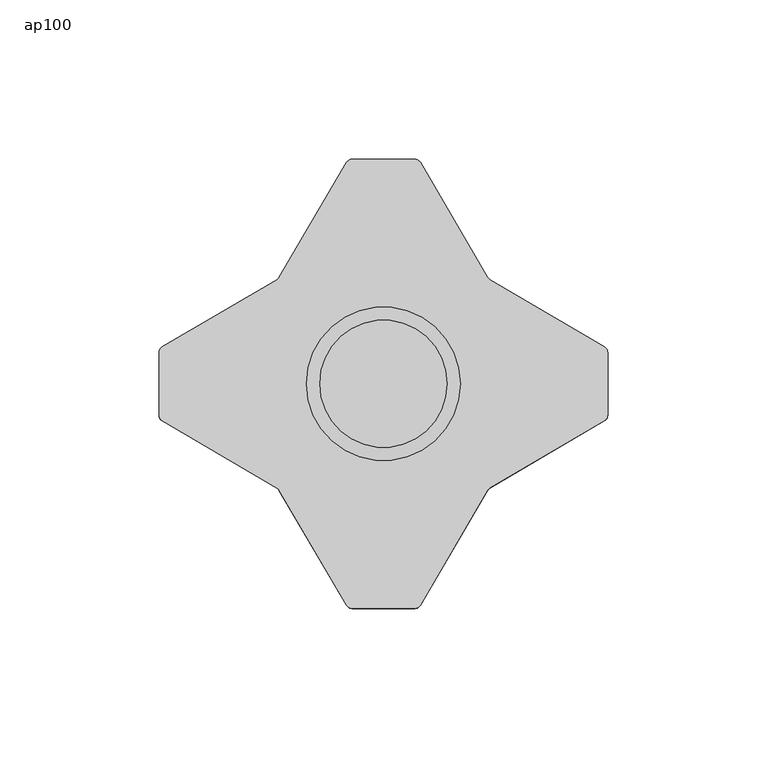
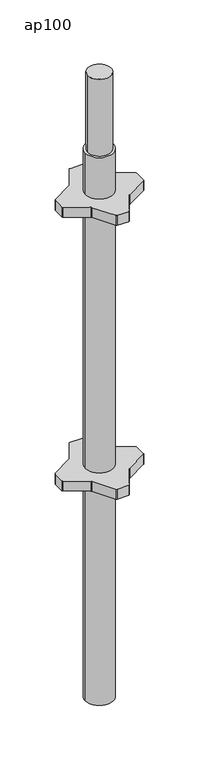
"""IFC4 building model written with IfcOpenShell, lengths in millimetres: proxy geometry, MILLS_ACRAM_POTEAUX  : ap100."""

from ifc_helpers import new_model, si_unit, point, frame, frame_2d, origin, place, context, project, spatial, polyline, circle_curve, trimmed, segment, composite_curve, outline, extrude, source, transform, mapped, element, save


def ap100_b654b57a(model_context):
    return source(origin(), model_context, "Body", "SweptSolid", [
        extrude(outline(composite_curve([segment(trimmed(circle_curve(frame_2d((-69.4239115, 68.5)), 2.0), [point((-69.4239115, 70.5))], [point((-67.6988617, 69.5120292))], False, "CARTESIAN"), True, "CONTINUOUS"), segment(polyline([(-67.6988617, 69.5120292), (-46.5421091, 33.4493827)]), True, "CONTINUOUS"), segment(trimmed(circle_curve(frame_2d((-44.8170593, 34.4614119)), 2.0), [point((-46.5421091, 33.4493827))], [point((-45.8290885, 32.7363621))], True, "CARTESIAN"), True, "CONTINUOUS"), segment(polyline([(-45.8290885, 32.7363621), (-9.7948682, 11.5962862)]), True, "CONTINUOUS"), segment(trimmed(circle_curve(frame_2d((-10.8068975, 9.8712364)), 2.0), [point((-9.7948682, 11.5962862))], [point((-8.8068975, 9.8712364))], False, "CARTESIAN"), True, "CONTINUOUS"), segment(polyline([(-8.8068975, 9.8712364), (-8.8068975, -9.8545597)]), True, "CONTINUOUS"), segment(trimmed(circle_curve(frame_2d((-10.8068975, -9.8545597)), 2.0), [point((-8.8068975, -9.8545597))], [point((-9.7948682, -11.5796095))], False, "CARTESIAN"), True, "CONTINUOUS"), segment(polyline([(-9.7948682, -11.5796095), (-45.8141703, -32.7109334)]), True, "CONTINUOUS"), segment(trimmed(circle_curve(frame_2d((-44.8021411, -34.4359832)), 2.0), [point((-45.8141703, -32.7109334))], [point((-46.5271909, -33.423954))], True, "CARTESIAN"), True, "CONTINUOUS"), segment(polyline([(-46.5271909, -33.423954), (-67.6988617, -69.5120292)]), True, "CONTINUOUS"), segment(trimmed(circle_curve(frame_2d((-69.4239115, -68.5)), 2.0), [point((-67.6988617, -69.5120292))], [point((-69.4239115, -70.5))], False, "CARTESIAN"), True, "CONTINUOUS"), segment(polyline([(-69.4239115, -70.5), (-89.1330309, -70.5)]), True, "CONTINUOUS"), segment(trimmed(circle_curve(frame_2d((-89.1330309, -68.5)), 2.0), [point((-89.1330309, -70.5))], [point((-90.8580808, -69.5120292))], False, "CARTESIAN"), True, "CONTINUOUS"), segment(polyline([(-90.8580808, -69.5120292), (-112.0148334, -33.4493827)]), True, "CONTINUOUS"), segment(trimmed(circle_curve(frame_2d((-113.7398832, -34.4614119)), 2.0), [point((-112.0148334, -33.4493827))], [point((-112.727854, -32.7363621))], True, "CARTESIAN"), True, "CONTINUOUS"), segment(polyline([(-112.727854, -32.7363621), (-148.7905005, -11.5796095)]), True, "CONTINUOUS"), segment(trimmed(circle_curve(frame_2d((-147.7784712, -9.8545597)), 2.0), [point((-148.7905005, -11.5796095))], [point((-149.7784712, -9.8545597))], False, "CARTESIAN"), True, "CONTINUOUS"), segment(polyline([(-149.7784712, -9.8545597), (-149.7784712, 9.8545597)]), True, "CONTINUOUS"), segment(trimmed(circle_curve(frame_2d((-147.7784712, 9.8545597)), 2.0), [point((-149.7784712, 9.8545597))], [point((-148.7905005, 11.5796095))], False, "CARTESIAN"), True, "CONTINUOUS"), segment(polyline([(-148.7905005, 11.5796095), (-112.727854, 32.7363621)]), True, "CONTINUOUS"), segment(trimmed(circle_curve(frame_2d((-113.7398832, 34.4614119)), 2.0), [point((-112.727854, 32.7363621))], [point((-112.0148334, 33.4493827))], True, "CARTESIAN"), True, "CONTINUOUS"), segment(polyline([(-112.0148334, 33.4493827), (-90.8580808, 69.5120292)]), True, "CONTINUOUS"), segment(trimmed(circle_curve(frame_2d((-89.1330309, 68.5)), 2.0), [point((-90.8580808, 69.5120292))], [point((-89.1330309, 70.5))], False, "CARTESIAN"), True, "CONTINUOUS"), segment(polyline([(-89.1330309, 70.5), (-69.4239115, 70.5)]), True, "CONTINUOUS")], self_intersect=False)), frame((0.0, 0.0, 991.0), z_axis=(0.0, 0.0, 1.0), x_axis=(1.0, 0.0, 0.0)), (0.0, 0.0, 1.0), 18.0),
        extrude(outline(composite_curve([segment(trimmed(circle_curve(frame_2d((-69.4239115, 68.5)), 2.0), [point((-69.4239115, 70.5))], [point((-67.6988617, 69.5120292))], False, "CARTESIAN"), True, "CONTINUOUS"), segment(polyline([(-67.6988617, 69.5120292), (-46.5421091, 33.4493827)]), True, "CONTINUOUS"), segment(trimmed(circle_curve(frame_2d((-44.8170593, 34.4614119)), 2.0), [point((-46.5421091, 33.4493827))], [point((-45.8290885, 32.7363621))], True, "CARTESIAN"), True, "CONTINUOUS"), segment(polyline([(-45.8290885, 32.7363621), (-9.7948682, 11.5962862)]), True, "CONTINUOUS"), segment(trimmed(circle_curve(frame_2d((-10.8068975, 9.8712364)), 2.0), [point((-9.7948682, 11.5962862))], [point((-8.8068975, 9.8712364))], False, "CARTESIAN"), True, "CONTINUOUS"), segment(polyline([(-8.8068975, 9.8712364), (-8.8068975, -9.8545597)]), True, "CONTINUOUS"), segment(trimmed(circle_curve(frame_2d((-10.8068975, -9.8545597)), 2.0), [point((-8.8068975, -9.8545597))], [point((-9.7948682, -11.5796095))], False, "CARTESIAN"), True, "CONTINUOUS"), segment(polyline([(-9.7948682, -11.5796095), (-45.8141703, -32.7109334)]), True, "CONTINUOUS"), segment(trimmed(circle_curve(frame_2d((-44.8021411, -34.4359832)), 2.0), [point((-45.8141703, -32.7109334))], [point((-46.5271909, -33.423954))], True, "CARTESIAN"), True, "CONTINUOUS"), segment(polyline([(-46.5271909, -33.423954), (-67.6988617, -69.5120292)]), True, "CONTINUOUS"), segment(trimmed(circle_curve(frame_2d((-69.4239115, -68.5)), 2.0), [point((-67.6988617, -69.5120292))], [point((-69.4239115, -70.5))], False, "CARTESIAN"), True, "CONTINUOUS"), segment(polyline([(-69.4239115, -70.5), (-89.1330309, -70.5)]), True, "CONTINUOUS"), segment(trimmed(circle_curve(frame_2d((-89.1330309, -68.5)), 2.0), [point((-89.1330309, -70.5))], [point((-90.8580808, -69.5120292))], False, "CARTESIAN"), True, "CONTINUOUS"), segment(polyline([(-90.8580808, -69.5120292), (-112.0148334, -33.4493827)]), True, "CONTINUOUS"), segment(trimmed(circle_curve(frame_2d((-113.7398832, -34.4614119)), 2.0), [point((-112.0148334, -33.4493827))], [point((-112.727854, -32.7363621))], True, "CARTESIAN"), True, "CONTINUOUS"), segment(polyline([(-112.727854, -32.7363621), (-148.7905005, -11.5796095)]), True, "CONTINUOUS"), segment(trimmed(circle_curve(frame_2d((-147.7784712, -9.8545597)), 2.0), [point((-148.7905005, -11.5796095))], [point((-149.7784712, -9.8545597))], False, "CARTESIAN"), True, "CONTINUOUS"), segment(polyline([(-149.7784712, -9.8545597), (-149.7784712, 9.8545597)]), True, "CONTINUOUS"), segment(trimmed(circle_curve(frame_2d((-147.7784712, 9.8545597)), 2.0), [point((-149.7784712, 9.8545597))], [point((-148.7905005, 11.5796095))], False, "CARTESIAN"), True, "CONTINUOUS"), segment(polyline([(-148.7905005, 11.5796095), (-112.727854, 32.7363621)]), True, "CONTINUOUS"), segment(trimmed(circle_curve(frame_2d((-113.7398832, 34.4614119)), 2.0), [point((-112.727854, 32.7363621))], [point((-112.0148334, 33.4493827))], True, "CARTESIAN"), True, "CONTINUOUS"), segment(polyline([(-112.0148334, 33.4493827), (-90.8580808, 69.5120292)]), True, "CONTINUOUS"), segment(trimmed(circle_curve(frame_2d((-89.1330309, 68.5)), 2.0), [point((-90.8580808, 69.5120292))], [point((-89.1330309, 70.5))], False, "CARTESIAN"), True, "CONTINUOUS"), segment(polyline([(-89.1330309, 70.5), (-69.4239115, 70.5)]), True, "CONTINUOUS")], self_intersect=False)), frame((0.0, 0.0, 491.0), z_axis=(0.0, 0.0, 1.0), x_axis=(1.0, 0.0, 0.0)), (0.0, 0.0, 1.0), 18.0),
        extrude(outline(composite_curve([segment(trimmed(circle_curve(frame_2d((-79.2784712, 0.0)), 20.0), [point((-99.2784712, 0.0))], [point((-59.2784712, 0.0))], False, "CARTESIAN"), True, "CONTINUOUS"), segment(trimmed(circle_curve(frame_2d((-79.2784712, 0.0)), 20.0), [point((-59.2784712, 0.0))], [point((-99.2784712, 0.0))], False, "CARTESIAN"), True, "CONTINUOUS")], self_intersect=False)), frame((0.0, 0.0, 1085.0), z_axis=(0.0, 0.0, 1.0), x_axis=(1.0, 0.0, 0.0)), (0.0, 0.0, 1.0), 140.0),
        extrude(outline(composite_curve([segment(trimmed(circle_curve(frame_2d((-79.2784712, 0.0)), 24.15), [point((-103.4284712, 0.0))], [point((-55.1284712, 0.0))], False, "CARTESIAN"), True, "CONTINUOUS"), segment(trimmed(circle_curve(frame_2d((-79.2784712, 0.0)), 24.15), [point((-55.1284712, 0.0))], [point((-103.4284712, 0.0))], False, "CARTESIAN"), True, "CONTINUOUS")], self_intersect=False)), frame((0.0, 0.0, 85.0), z_axis=(0.0, 0.0, 1.0), x_axis=(1.0, 0.0, 0.0)), (0.0, 0.0, 1.0), 1000.0),
    ])


if __name__ == "__main__":
    model = new_model("IFC4")
    model_context = context("Model", 3, world=origin())
    ifc_project = project(units=[si_unit("LENGTHUNIT", "METRE", prefix="MILLI")], contexts=[model_context])
    site = spatial("IfcSite", under=ifc_project)
    building = spatial("IfcBuilding", under=site)
    placement = place(None, origin())
    ap100_shape = ap100_b654b57a(model_context)
    element("IfcBuildingElementProxy", 1, Name="MILLS_ACRAM_POTEAUX  : ap100", ObjectType="MILLS_ACRAM_POTEAUX  : ap100", at=placement, inside=building, context=model_context, shape_type="MappedRepresentation", body=[
        mapped(ap100_shape, transform((0.0, 0.0, 0.0), x_axis=(1.0, 0.0, 0.0), y_axis=(0.0, 1.0, 0.0), z_axis=(0.0, 0.0, 1.0))),
    ])
    save(model, "model.ifc")
